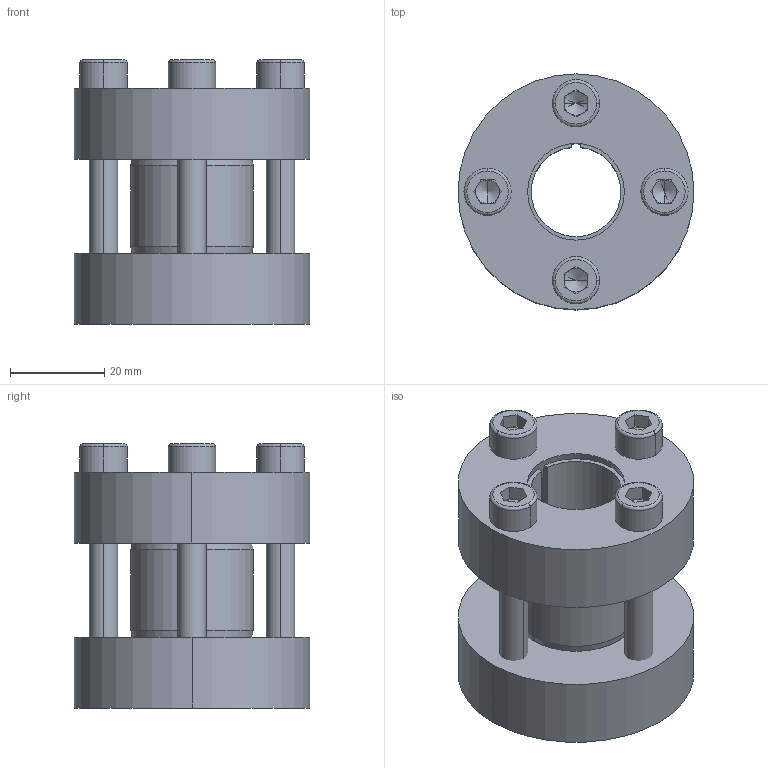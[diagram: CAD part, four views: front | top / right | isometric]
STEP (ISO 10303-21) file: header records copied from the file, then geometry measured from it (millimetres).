
FILE_DESCRIPTION (( 'STEP AP214' ), '1' );
FILE_NAME ('CONEX-M-19x50.step', '2013-04-06T13:25:03', ( 'Pc' ), ( '' ), 'SwSTEP 2.0', 'SolidWorks 2013', '' );
FILE_SCHEMA (( 'AUTOMOTIVE_DESIGN' ));
Length unit declared in the file: millimetre
Products named in the file (1): CONEX-M-19x50
Bounding box: 50 x 50 x 55.99 mm (x, y, z)
Volume: 58066.2 mm3; surface area: 26436.5 mm2
Topology: 7 solids, 7 shells, 152 faces, 342 edges, 204 vertices
Faces by surface type: plane 68, cylinder 42, cone 26, torus 16
Entity records: 5991 total; most frequent: DIRECTION 798, CARTESIAN_POINT 718, ORIENTED_EDGE 668, EDGE_CURVE 334, AXIS2_PLACEMENT_3D 315, VERTEX_POINT 204, EDGE_LOOP 180, VECTOR 168
